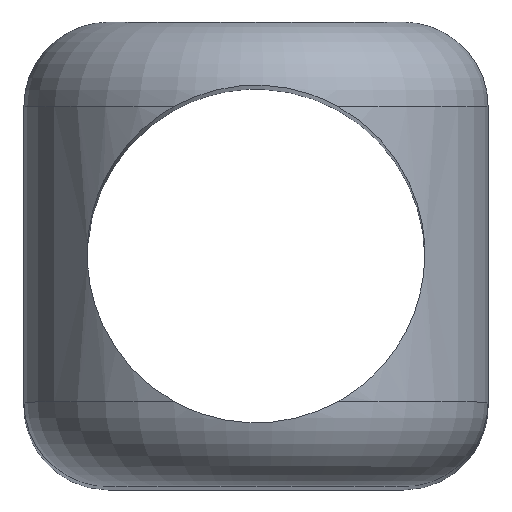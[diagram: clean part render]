
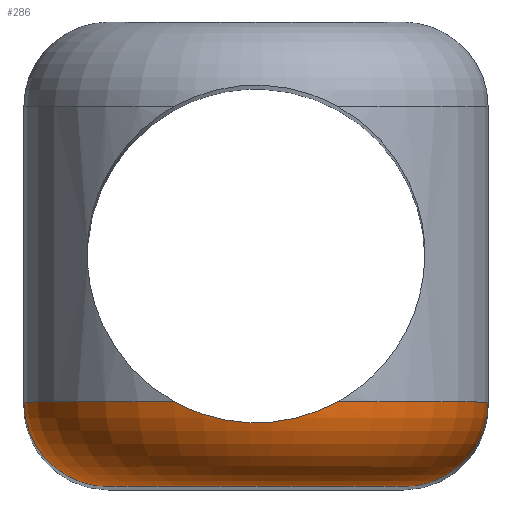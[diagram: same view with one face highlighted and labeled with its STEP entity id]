
A CAD part, top view. The second image highlights one B-rep face of the part: STEP entity #286.
In plain terms, the highlighted toroidal (fillet/blend) face has major radius 7 mm and minor radius 4 mm.
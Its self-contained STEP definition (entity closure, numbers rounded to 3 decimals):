
#15=TOROIDAL_SURFACE('',#322,7.,4.);
#30=FACE_OUTER_BOUND('',#47,.T.);
#47=EDGE_LOOP('',(#210,#211,#212,#213,#214,#215));
#102=CIRCLE('',#323,11.);
#103=CIRCLE('',#324,4.);
#104=CIRCLE('',#325,7.);
#105=CIRCLE('',#326,4.);
#106=CIRCLE('',#327,11.);
#116=B_SPLINE_CURVE_WITH_KNOTS('',3,(#497,#498,#499,#500,#501,#502,#503,
#504,#505,#506,#507,#508,#509,#510,#511,#512),.UNSPECIFIED.,.F.,.F.,(4,
2,2,2,2,2,2,4),(-0.821,-0.708,-0.544,
-0.463,-0.404,-0.342,-0.25,
0.),.UNSPECIFIED.);
#125=VERTEX_POINT('',#481);
#126=VERTEX_POINT('',#496);
#134=VERTEX_POINT('',#550);
#135=VERTEX_POINT('',#552);
#136=VERTEX_POINT('',#554);
#137=VERTEX_POINT('',#556);
#151=EDGE_CURVE('',#126,#125,#116,.T.);
#163=EDGE_CURVE('',#125,#134,#102,.T.);
#164=EDGE_CURVE('',#135,#134,#103,.T.);
#165=EDGE_CURVE('',#135,#136,#104,.T.);
#166=EDGE_CURVE('',#136,#137,#105,.T.);
#167=EDGE_CURVE('',#137,#126,#106,.T.);
#210=ORIENTED_EDGE('',*,*,#151,.T.);
#211=ORIENTED_EDGE('',*,*,#163,.T.);
#212=ORIENTED_EDGE('',*,*,#164,.F.);
#213=ORIENTED_EDGE('',*,*,#165,.T.);
#214=ORIENTED_EDGE('',*,*,#166,.T.);
#215=ORIENTED_EDGE('',*,*,#167,.T.);
#286=ADVANCED_FACE('',(#30),#15,.T.);
#322=AXIS2_PLACEMENT_3D('',#549,#372,#373);
#323=AXIS2_PLACEMENT_3D('',#551,#374,#375);
#324=AXIS2_PLACEMENT_3D('',#553,#376,#377);
#325=AXIS2_PLACEMENT_3D('',#555,#378,#379);
#326=AXIS2_PLACEMENT_3D('',#557,#380,#381);
#327=AXIS2_PLACEMENT_3D('',#558,#382,#383);
#372=DIRECTION('center_axis',(0.,1.,0.));
#373=DIRECTION('ref_axis',(0.,0.,1.));
#374=DIRECTION('center_axis',(0.,-1.,0.));
#375=DIRECTION('ref_axis',(0.,0.,1.));
#376=DIRECTION('center_axis',(0.,0.,-1.));
#377=DIRECTION('ref_axis',(0.,-1.,0.));
#378=DIRECTION('center_axis',(0.,1.,0.));
#379=DIRECTION('ref_axis',(0.,0.,1.));
#380=DIRECTION('center_axis',(0.,0.,1.));
#381=DIRECTION('ref_axis',(0.,-1.,0.));
#382=DIRECTION('center_axis',(0.,-1.,0.));
#383=DIRECTION('ref_axis',(0.,0.,1.));
#481=CARTESIAN_POINT('',(-3.873,-7.,109.296));
#496=CARTESIAN_POINT('',(3.873,-7.,109.296));
#497=CARTESIAN_POINT('Ctrl Pts',(3.873,-7.,109.296));
#498=CARTESIAN_POINT('Ctrl Pts',(3.561,-7.173,109.413));
#499=CARTESIAN_POINT('Ctrl Pts',(3.232,-7.327,109.509));
#500=CARTESIAN_POINT('Ctrl Pts',(2.389,-7.654,109.699));
#501=CARTESIAN_POINT('Ctrl Pts',(1.864,-7.799,109.774));
#502=CARTESIAN_POINT('Ctrl Pts',(1.06,-7.934,109.841));
#503=CARTESIAN_POINT('Ctrl Pts',(0.793,-7.965,109.856));
#504=CARTESIAN_POINT('Ctrl Pts',(0.327,-7.996,109.871));
#505=CARTESIAN_POINT('Ctrl Pts',(0.13,-8.001,109.874));
#506=CARTESIAN_POINT('Ctrl Pts',(-0.273,-7.998,109.872));
#507=CARTESIAN_POINT('Ctrl Pts',(-0.478,-7.988,109.867));
#508=CARTESIAN_POINT('Ctrl Pts',(-0.991,-7.944,109.846));
#509=CARTESIAN_POINT('Ctrl Pts',(-1.296,-7.9,109.825));
#510=CARTESIAN_POINT('Ctrl Pts',(-2.411,-7.673,109.709));
#511=CARTESIAN_POINT('Ctrl Pts',(-3.181,-7.383,109.556));
#512=CARTESIAN_POINT('Ctrl Pts',(-3.873,-7.,109.296));
#549=CARTESIAN_POINT('Origin',(0.,-7.,99.));
#550=CARTESIAN_POINT('',(-11.,-7.,99.));
#551=CARTESIAN_POINT('Origin',(0.,-7.,99.));
#552=CARTESIAN_POINT('',(-7.,-11.,99.));
#553=CARTESIAN_POINT('Origin',(-7.,-7.,99.));
#554=CARTESIAN_POINT('',(7.,-11.,99.));
#555=CARTESIAN_POINT('Origin',(0.,-11.,99.));
#556=CARTESIAN_POINT('',(11.,-7.,99.));
#557=CARTESIAN_POINT('Origin',(7.,-7.,99.));
#558=CARTESIAN_POINT('Origin',(0.,-7.,99.));
